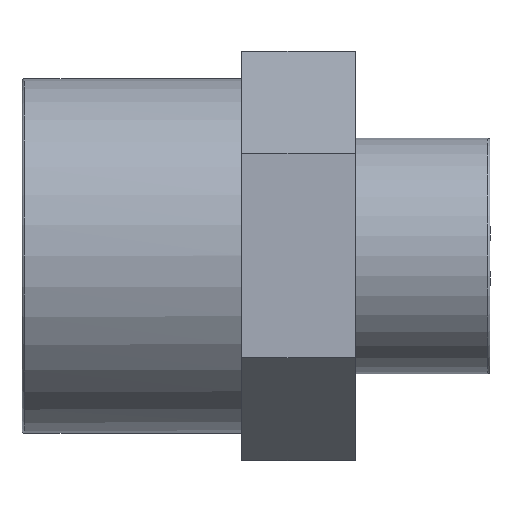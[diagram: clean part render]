
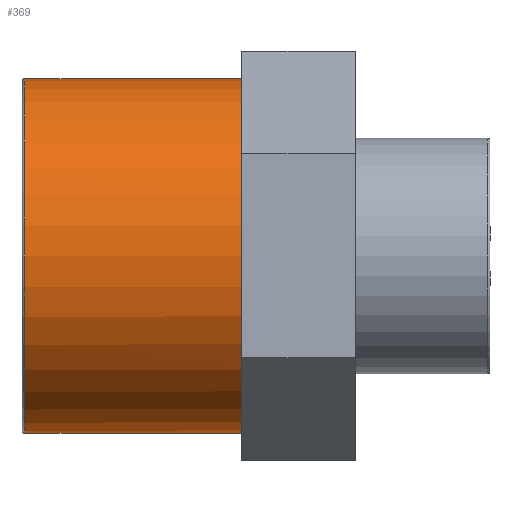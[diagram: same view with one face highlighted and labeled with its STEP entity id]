
A CAD part, front view. The second image highlights one B-rep face of the part: STEP entity #369.
In plain terms, the highlighted cylindrical face has radius 25 mm (diameter 50 mm), a full revolution.
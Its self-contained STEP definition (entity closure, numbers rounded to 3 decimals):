
#18=CYLINDRICAL_SURFACE('',#414,25.);
#29=FACE_BOUND('',#114,.T.);
#38=CIRCLE('',#380,25.);
#39=CIRCLE('',#382,25.);
#40=CIRCLE('',#384,25.);
#41=CIRCLE('',#386,25.);
#42=CIRCLE('',#388,25.);
#43=CIRCLE('',#390,25.);
#54=CIRCLE('',#413,25.);
#78=FACE_OUTER_BOUND('',#113,.T.);
#113=EDGE_LOOP('',(#311,#312,#313,#314,#315,#316));
#114=EDGE_LOOP('',(#317));
#174=VERTEX_POINT('',#544);
#178=VERTEX_POINT('',#554);
#181=VERTEX_POINT('',#562);
#182=VERTEX_POINT('',#566);
#183=VERTEX_POINT('',#574);
#184=VERTEX_POINT('',#578);
#199=VERTEX_POINT('',#627);
#215=EDGE_CURVE('',#181,#182,#38,.T.);
#217=EDGE_CURVE('',#178,#181,#39,.T.);
#218=EDGE_CURVE('',#174,#178,#40,.T.);
#219=EDGE_CURVE('',#183,#174,#41,.T.);
#221=EDGE_CURVE('',#184,#183,#42,.T.);
#224=EDGE_CURVE('',#182,#184,#43,.T.);
#242=EDGE_CURVE('',#199,#199,#54,.T.);
#311=ORIENTED_EDGE('',*,*,#215,.T.);
#312=ORIENTED_EDGE('',*,*,#224,.T.);
#313=ORIENTED_EDGE('',*,*,#221,.T.);
#314=ORIENTED_EDGE('',*,*,#219,.T.);
#315=ORIENTED_EDGE('',*,*,#218,.T.);
#316=ORIENTED_EDGE('',*,*,#217,.T.);
#317=ORIENTED_EDGE('',*,*,#242,.F.);
#369=ADVANCED_FACE('',(#78,#29),#18,.T.);
#380=AXIS2_PLACEMENT_3D('',#567,#444,#445);
#382=AXIS2_PLACEMENT_3D('',#570,#449,#450);
#384=AXIS2_PLACEMENT_3D('',#572,#453,#454);
#386=AXIS2_PLACEMENT_3D('',#575,#457,#458);
#388=AXIS2_PLACEMENT_3D('',#579,#462,#463);
#390=AXIS2_PLACEMENT_3D('',#584,#468,#469);
#413=AXIS2_PLACEMENT_3D('',#628,#521,#522);
#414=AXIS2_PLACEMENT_3D('',#629,#523,#524);
#444=DIRECTION('center_axis',(-1.,0.,0.));
#445=DIRECTION('ref_axis',(0.,-1.,0.));
#449=DIRECTION('center_axis',(-1.,0.,0.));
#450=DIRECTION('ref_axis',(0.,-1.,0.));
#453=DIRECTION('center_axis',(-1.,0.,0.));
#454=DIRECTION('ref_axis',(0.,-1.,0.));
#457=DIRECTION('center_axis',(-1.,0.,0.));
#458=DIRECTION('ref_axis',(0.,-1.,0.));
#462=DIRECTION('center_axis',(-1.,0.,0.));
#463=DIRECTION('ref_axis',(0.,-1.,0.));
#468=DIRECTION('center_axis',(-1.,0.,0.));
#469=DIRECTION('ref_axis',(0.,-1.,0.));
#521=DIRECTION('center_axis',(-1.,0.,0.));
#522=DIRECTION('ref_axis',(0.,1.,0.));
#523=DIRECTION('center_axis',(-1.,0.,0.));
#524=DIRECTION('ref_axis',(0.,-1.,0.));
#544=CARTESIAN_POINT('',(-2.,-25.,0.091));
#554=CARTESIAN_POINT('',(-2.,-12.421,21.696));
#562=CARTESIAN_POINT('',(-2.,12.579,21.605));
#566=CARTESIAN_POINT('',(-2.,25.,-0.091));
#567=CARTESIAN_POINT('Origin',(-2.,0.,0.));
#570=CARTESIAN_POINT('Origin',(-2.,0.,0.));
#572=CARTESIAN_POINT('Origin',(-2.,0.,0.));
#574=CARTESIAN_POINT('',(-2.,-12.579,-21.605));
#575=CARTESIAN_POINT('Origin',(-2.,0.,0.));
#578=CARTESIAN_POINT('',(-2.,12.421,-21.696));
#579=CARTESIAN_POINT('Origin',(-2.,0.,0.));
#584=CARTESIAN_POINT('Origin',(-2.,0.,0.));
#627=CARTESIAN_POINT('',(-32.6,-25.,0.));
#628=CARTESIAN_POINT('Origin',(-32.6,0.,0.));
#629=CARTESIAN_POINT('Origin',(-17.5,0.,0.));
